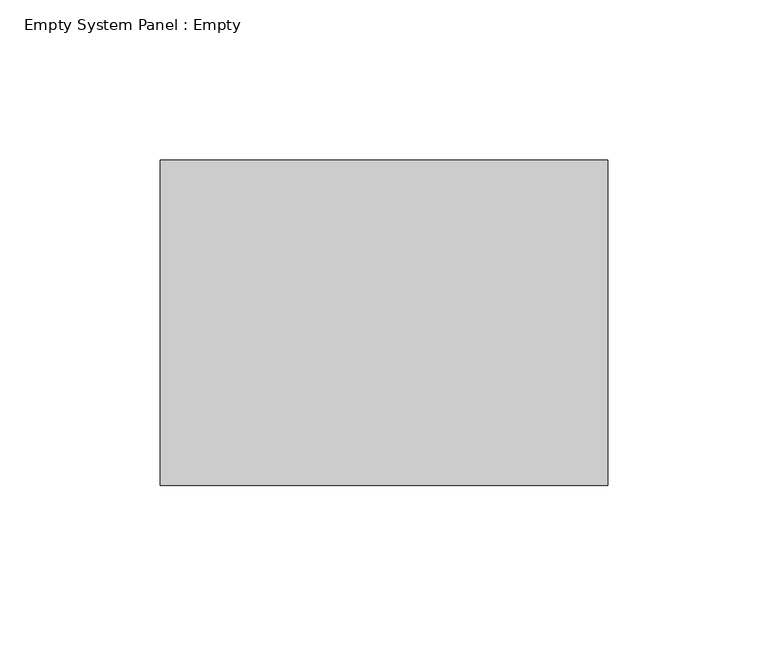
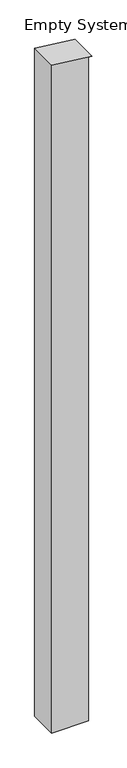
"""IFC4 building model written with IfcOpenShell, lengths in millimetres: plate geometry, Empty System Panel : Empty."""

from ifc_helpers import new_model, si_unit, frame, origin, place, context, project, spatial, polyline, outline, extrude, source, transform, mapped, element, save


def empty_system_panel_empty_a4fef409(model_context):
    return source(origin(), model_context, "Body", "SweptSolid", [
        extrude(outline(polyline([(0.0, -69.85), (0.0, 57.15), (2417.4891163, 57.15), (2417.4891163, 69.85), (2433.1143062, -69.85), (0.0, -69.85)])), frame((0.0, -50.8, 0.0), z_axis=(0.0, 1.0, 0.0), x_axis=(0.0, 0.0, 1.0)), (0.0, 0.0, 1.0), 101.6),
    ])


if __name__ == "__main__":
    model = new_model("IFC4")
    model_context = context("Model", 3, world=origin())
    ifc_project = project(units=[si_unit("LENGTHUNIT", "METRE", prefix="MILLI")], contexts=[model_context])
    site = spatial("IfcSite", under=ifc_project)
    building = spatial("IfcBuilding", under=site)
    placement = place(None, origin())
    empty_system_panel_empty_shape = empty_system_panel_empty_a4fef409(model_context)
    element("IfcPlate", 1, ObjectType="Empty System Panel : Empty", at=placement, inside=building, context=model_context, shape_type="MappedRepresentation", body=[
        mapped(empty_system_panel_empty_shape, transform((0.0, 0.0, 0.0), x_axis=(1.0, 0.0, 0.0), y_axis=(0.0, 1.0, 0.0), z_axis=(0.0, 0.0, 1.0))),
    ])
    save(model, "model.ifc")
